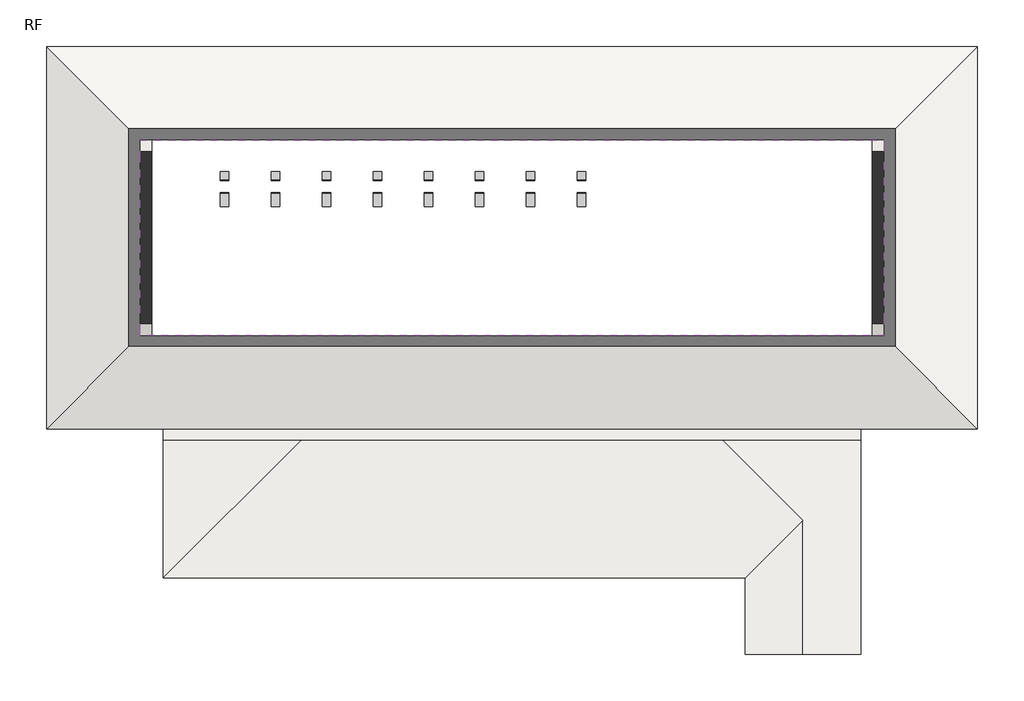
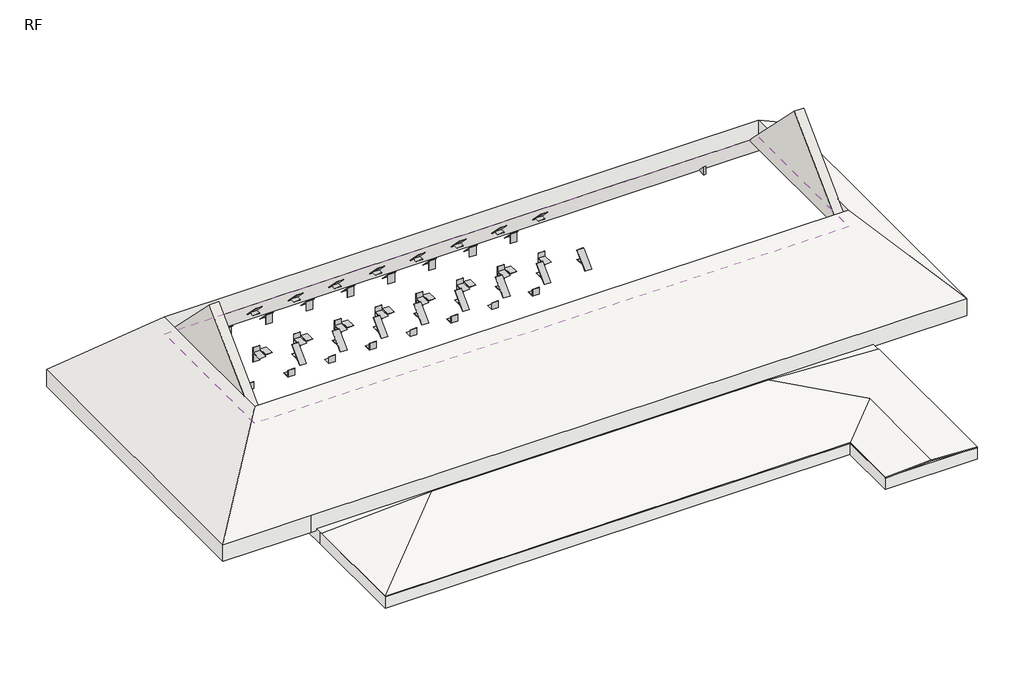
# One storey, incomplete: 8 beams, 3 roofs, 3 walls, 1 proxy, 1 slab.
"""IFC4 building model written with IfcOpenShell, lengths in millimetres."""

from ifc_helpers import new_model, si_unit, frame, origin, place, context, project, spatial, polyline, outline, extrude, faceted_brep, transform, mapped, element, save
from components import beam_f5f27abd, generic_models_640c696f

model = new_model("IFC4")

# Units and contexts
model_context = context("Model", 3, world=origin())
ifc_project = project(units=[si_unit("LENGTHUNIT", "METRE", prefix="MILLI")], contexts=[model_context])

# Site, building, storey
site = spatial("IfcSite", under=ifc_project)
building = spatial("IfcBuilding", under=site)
storey = spatial("IfcBuildingStorey", under=building, Name="RF", Elevation=2950.0)

# Beams
placement = place(None, origin())
beam_shape = beam_f5f27abd(model_context)
element("IfcBeam", 1, ObjectType="结构框架 30 : 结构框架 3", at=placement, inside=storey, context=model_context, shape_type="MappedRepresentation", body=[
    mapped(beam_shape, transform((-40670.1727266, 26256.0546496, -4370.4117108), x_axis=(0.0, -1.0, 0.0), y_axis=(1.0, 0.0, 0.0), z_axis=(0.0, 0.0, 1.0))),
])
element("IfcBeam", 2, ObjectType="结构框架 8 : 结构框架 3", at=placement, inside=storey, context=model_context, shape_type="MappedRepresentation", body=[
    mapped(beam_shape, transform((-40070.1727266, 26256.0546496, -4370.4117108), x_axis=(0.0, -1.0, 0.0), y_axis=(1.0, 0.0, 0.0), z_axis=(0.0, 0.0, 1.0))),
])
element("IfcBeam", 3, ObjectType="结构框架 10 : 结构框架 3", at=placement, inside=storey, context=model_context, shape_type="MappedRepresentation", body=[
    mapped(beam_shape, transform((-39470.1727266, 26256.0546496, -4370.4117108), x_axis=(0.0, -1.0, 0.0), y_axis=(1.0, 0.0, 0.0), z_axis=(0.0, 0.0, 1.0))),
])
element("IfcBeam", 4, ObjectType="结构框架 12 : 结构框架 3", at=placement, inside=storey, context=model_context, shape_type="MappedRepresentation", body=[
    mapped(beam_shape, transform((-38870.1727266, 26256.0546496, -4370.4117108), x_axis=(0.0, -1.0, 0.0), y_axis=(1.0, 0.0, 0.0), z_axis=(0.0, 0.0, 1.0))),
])
element("IfcBeam", 5, ObjectType="结构框架 14 : 结构框架 3", at=placement, inside=storey, context=model_context, shape_type="MappedRepresentation", body=[
    mapped(beam_shape, transform((-38270.1727266, 26256.0546496, -4370.4117108), x_axis=(0.0, -1.0, 0.0), y_axis=(1.0, 0.0, 0.0), z_axis=(0.0, 0.0, 1.0))),
])
element("IfcBeam", 6, ObjectType="结构框架 16 : 结构框架 3", at=placement, inside=storey, context=model_context, shape_type="MappedRepresentation", body=[
    mapped(beam_shape, transform((-37670.1727266, 26256.0546496, -4370.4117108), x_axis=(0.0, -1.0, 0.0), y_axis=(1.0, 0.0, 0.0), z_axis=(0.0, 0.0, 1.0))),
])
element("IfcBeam", 7, ObjectType="结构框架 18 : 结构框架 3", at=placement, inside=storey, context=model_context, shape_type="MappedRepresentation", body=[
    mapped(beam_shape, transform((-37070.1727266, 26256.0546496, -4370.4117108), x_axis=(0.0, -1.0, 0.0), y_axis=(1.0, 0.0, 0.0), z_axis=(0.0, 0.0, 1.0))),
])
element("IfcBeam", 8, ObjectType="结构框架 20 : 结构框架 3", at=placement, inside=storey, context=model_context, shape_type="MappedRepresentation", body=[
    mapped(beam_shape, transform((-36470.1727266, 26256.0546496, -4370.4117108), x_axis=(0.0, -1.0, 0.0), y_axis=(1.0, 0.0, 0.0), z_axis=(0.0, 0.0, 1.0))),
])

# Proxy
generic_models_shape = generic_models_640c696f(model_context)
element("IfcBuildingElementProxy", 9, Name="常规模型 2 : 常规模型 2", ObjectType="常规模型 2 : 常规模型 2", at=placement, inside=storey, context=model_context, shape_type="MappedRepresentation", body=[
    mapped(generic_models_shape, transform((0.0, 0.0, 0.0), x_axis=(1.0, 0.0, 0.0), y_axis=(0.0, 1.0, 0.0), z_axis=(0.0, 0.0, 1.0))),
])

# Roofs
element("IfcRoof", 10, ObjectType="常规 - 186mm", at=placement, inside=storey, context=model_context, shape_type="Brep", body=[
    faceted_brep([(-4346.6712332, 3286.6904444, 2919.0883118), (6603.1321461, 3286.6904444, 2919.0883118), (5503.1321461, 2186.6904444, 4019.0883118), (-3246.6712332, 2186.6904444, 4019.0883118), (6603.1321461, 3286.6904444, 3182.1320344), (-4346.6712332, 3286.6904444, 3182.1320344), (-3246.6712332, 2186.6904444, 4282.1320344), (5503.1321461, 2186.6904444, 4282.1320344), (5503.1321461, -113.0095556, 4019.0883118), (5503.1321461, -113.0095556, 4282.1320344), (-3246.6712332, -113.0095556, 4019.0883118), (-3246.6712332, -113.0095556, 4282.1320344), (-4346.6712332, -1213.0095556, 2919.0883118), (6603.1321461, -1213.0095556, 2919.0883118), (-3046.6712332, -1213.0095556, 2919.0883118), (-4346.6712332, -1213.0095556, 3182.1320344), (-3046.6712332, -1213.0095556, 3182.1320344), (6603.1321461, -1213.0095556, 3182.1320344)], [[[0, 1, 2, 3]], [[4, 5, 6, 7]], [[5, 4, 1, 0]], [[2, 7, 6, 3]], [[7, 2, 8, 9]], [[9, 8, 10, 11]], [[11, 10, 3, 6]], [[12, 0, 3, 10]], [[13, 14, 12, 10, 8]], [[1, 13, 8, 2]], [[5, 15, 11, 6]], [[16, 17, 9, 11, 15]], [[17, 4, 7, 9]], [[17, 16, 14, 13]], [[4, 17, 13, 1]], [[15, 5, 0, 12]], [[16, 15, 12, 14]]]),
])
element("IfcRoof", 11, ObjectType="常规 - 186mm", at=placement, inside=storey, context=model_context, shape_type="Brep", body=[
    faceted_brep([(5503.1321461, 1036.8404444, 5168.9383118), (-3246.6712332, 1036.8404444, 5168.9383118), (-3246.6712332, 1923.6467218, 4282.1320344), (-3246.6712332, 2186.6904444, 4019.0883118), (5503.1321461, 2186.6904444, 4019.0883118), (5503.1321461, 1923.6467218, 4282.1320344), (5503.1321461, 150.034167, 4282.1320344), (5503.1321461, -113.0095556, 4019.0883118), (-3246.6712332, -113.0095556, 4019.0883118), (-3246.6712332, 150.034167, 4282.1320344), (5503.1321461, 2186.6904444, 4282.1320344), (-3246.6712332, 2186.6904444, 4282.1320344), (-3246.6712332, 1036.8404444, 5431.9820344), (5503.1321461, 1036.8404444, 5431.9820344), (-3246.6712332, -113.0095556, 4282.1320344), (5503.1321461, -113.0095556, 4282.1320344)], [[[0, 1, 2, 3, 4, 5]], [[1, 0, 6, 7, 8, 9]], [[10, 11, 12, 13]], [[13, 12, 14, 15]], [[11, 10, 4, 3]], [[15, 14, 8, 7]], [[10, 13, 15, 7, 6, 0, 5, 4]], [[12, 11, 3, 2, 1, 9, 8, 14]]]),
])
element("IfcRoof", 12, ObjectType="常规 - 10mm", at=placement, inside=storey, context=model_context, shape_type="Brep", body=[
    faceted_brep([(-2971.6711453, -2968.2095556, 2950.0), (-1352.7711453, -1349.3095556, 3034.8429539), (3609.232234, -1349.3095556, 3034.8429539), (4550.132234, -2290.2095556, 2985.5324744), (3872.132234, -2968.2095556, 2950.0), (-2971.6711453, -1349.3095556, 2950.0), (5228.132234, -1349.3095556, 2950.0), (5228.132234, -3868.2095556, 2950.0), (4550.132234, -3868.2095556, 2985.5324744), (-2971.6711453, -2968.2095556, 2960.0137235), (3872.132234, -2968.2095556, 2960.0137235), (4550.132234, -2290.2095556, 2995.5461978), (3609.232234, -1349.3095556, 3044.8566773), (-1352.7711453, -1349.3095556, 3044.8566773), (-2971.6711453, -1349.3095556, 2960.0137235), (5228.132234, -1349.3095556, 2960.0137235), (4550.132234, -3868.2095556, 2995.5461978), (5228.132234, -3868.2095556, 2960.0137235), (3872.132234, -3868.2095556, 2950.0), (3872.132234, -3868.2095556, 2960.0137235)], [[[0, 1, 2, 3, 4]], [[0, 5, 1]], [[6, 7, 8, 3, 2]], [[9, 10, 11, 12, 13]], [[14, 9, 13]], [[15, 12, 11, 16, 17]], [[6, 15, 17, 7]], [[0, 9, 14, 5]], [[4, 10, 9, 0]], [[14, 13, 12, 15, 6, 2, 1, 5]], [[18, 4, 3, 8]], [[10, 19, 16, 11]], [[18, 19, 10, 4]], [[17, 16, 19, 18, 8, 7]]]),
])

# Slab
element("IfcSlab", 13, ObjectType="常规 - 150mm 5", at=placement, inside=storey, context=model_context, shape_type="SweptSolid", body=[
    extrude(outline(polyline([(3872.132234, -2963.2095556), (-2971.6711453, -2963.2095556), (-2971.6711453, -1308.0095556), (-2971.6711453, -968.2095556), (5228.132234, -968.2095556), (5228.132234, -3863.2095556), (3872.132234, -3863.2095556), (3872.132234, -2963.2095556)])), frame((0.0, 0.0, 2770.0), z_axis=(0.0, 0.0, 1.0), x_axis=(1.0, 0.0, 0.0)), (0.0, 0.0, 1.0), 180.0),
])

# Walls
element("IfcWall", 14, ObjectType="Int-100 10-09/100/09-10/S1", at=placement, inside=storey, context=model_context, shape_type="Brep", body=[
    faceted_brep([(5228.232234, -830.2095556, 2770.0), (5095.132234, -830.2095556, 2770.0), (2005.132234, -830.2095556, 2770.0), (1867.132234, -830.2095556, 2770.0), (-2838.6711453, -830.2095556, 2770.0), (-2971.6711453, -830.2095556, 2770.0), (-2971.6711453, -830.2095556, 2950.0), (5228.232234, -830.2095556, 2950.0), (5228.232234, -968.2095556, 2770.0), (5228.232234, -968.2095556, 2950.0), (-2971.6711453, -968.2095556, 2950.0), (-2971.6711453, -968.2095556, 2770.0)], [[[0, 1, 2, 3, 4, 5, 6, 7]], [[8, 9, 10, 11]], [[5, 4, 3, 2, 1, 0, 8, 11]], [[6, 5, 11, 10]], [[7, 6, 10, 9]], [[0, 7, 9, 8]]]),
])
element("IfcWall", 15, ObjectType="Int-100 10-09/100/09-10/S1", at=placement, inside=storey, context=model_context, shape_type="SweptSolid", body=[
    extrude(outline(polyline([(1036.8404444, 5169.1392362), (2186.6904444, 4019.2892362), (-113.0095556, 4019.2892362), (1036.8404444, 5169.1392362)])), frame((5365.1321461, 0.0, 0.0), z_axis=(1.0, 0.0, 0.0), x_axis=(0.0, 1.0, 0.0)), (0.0, 0.0, 1.0), 138.0),
])
element("IfcWall", 16, ObjectType="Int-100 10-09/100/09-10/S1", at=placement, inside=storey, context=model_context, shape_type="SweptSolid", body=[
    extrude(outline(polyline([(1036.8404444, 5168.9383118), (2186.6904444, 4019.0883118), (-113.0095556, 4019.0883118), (1036.8404444, 5168.9383118)])), frame((-3246.6712332, 0.0, 0.0), z_axis=(1.0, 0.0, 0.0), x_axis=(0.0, 1.0, 0.0)), (0.0, 0.0, 1.0), 138.0),
])

save(model, "model.ifc")
